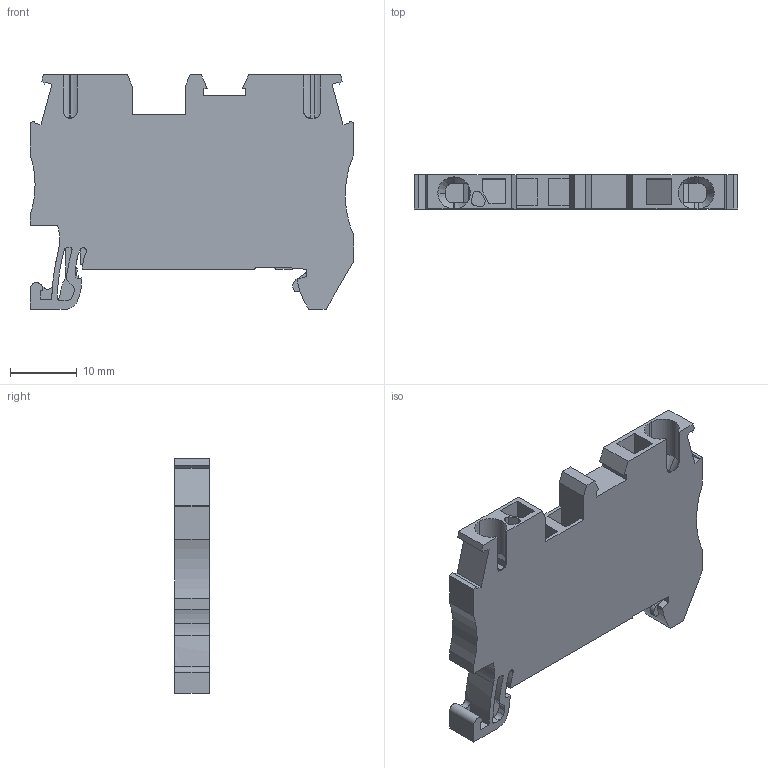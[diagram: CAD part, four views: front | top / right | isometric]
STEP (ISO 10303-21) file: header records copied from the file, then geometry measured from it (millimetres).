
FILE_DESCRIPTION(('TFLEX Exchange Step'),'2;1');
FILE_NAME('10000012_KH3_2,5-2-PE.stp', '2023-10-02T09:30:29+03:00',('apanin'),('Unknown organisation'),'TFLEX Exchange 2023.0','T-FLEX CAD','Unknown authorisation');
FILE_SCHEMA( ('AUTOMOTIVE_DESIGN { 1 0 10303 214 1 1 1 1 }') );
Length unit declared in the file: millimetre
Products named in the file (1): Тело_1:1
Bounding box: 48.6 x 5.15 x 35.25 mm (x, y, z)
Volume: 6088 mm3; surface area: 4614.9 mm2
Topology: 1 solids, 1 shells, 447 faces, 1302 edges, 867 vertices
Faces by surface type: cylinder 233, plane 206, cone 8
Entity records: 15606 total; most frequent: CARTESIAN_POINT 3381, ORIENTED_EDGE 2604, DIRECTION 2548, EDGE_CURVE 1302, AXIS2_PLACEMENT_3D 921, VERTEX_POINT 867, VECTOR 706, LINE 706
